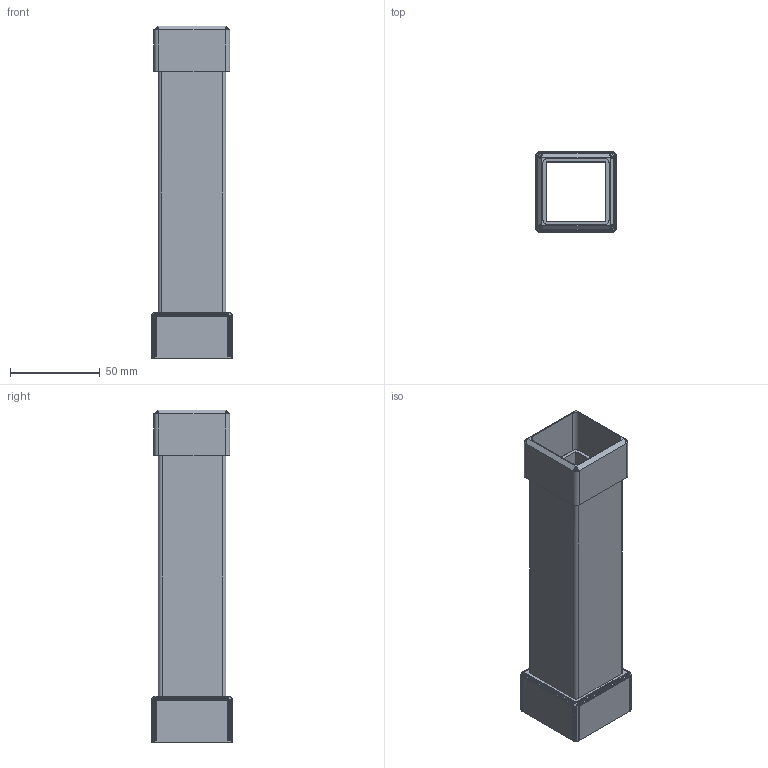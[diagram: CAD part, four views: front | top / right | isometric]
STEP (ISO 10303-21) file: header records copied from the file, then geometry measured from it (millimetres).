
FILE_DESCRIPTION(('Open CASCADE Model'),'2;1');
FILE_NAME('Open CASCADE Shape Model','2026-10-24T22:30:24',('Author'),( 'Open CASCADE'),'Open CASCADE STEP processor 7.9','Open CASCADE 7.9' ,'Unknown');
FILE_SCHEMA(('AUTOMOTIVE_DESIGN { 1 0 10303 214 1 1 1 1 }'));
Length unit declared in the file: millimetre
Products named in the file (1): Open CASCADE STEP translator 7.9 1
Bounding box: 44.83 x 44.83 x 184.78 mm (x, y, z)
Volume: 59291.2 mm3; surface area: 56020.3 mm2
Topology: 1 solids, 1 shells, 255 faces, 641 edges, 392 vertices
Faces by surface type: plane 223, bspline 16, cylinder 16
Entity records: 19993 total; most frequent: CARTESIAN_POINT 7865, DIRECTION 1942, LINE 1454, VECTOR 1454, ORIENTED_EDGE 1282, PCURVE 1282, DEFINITIONAL_REPRESENTATION 1282, EDGE_CURVE 641
